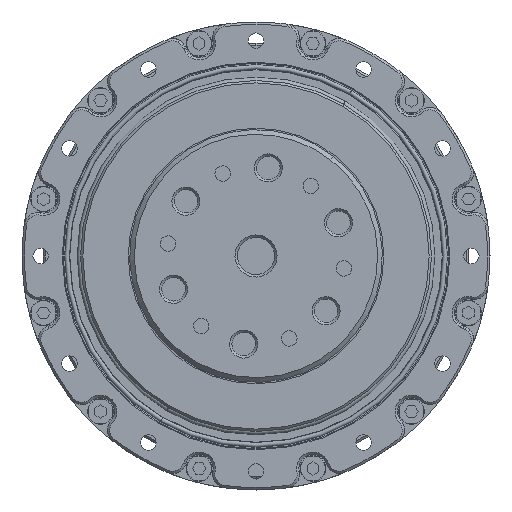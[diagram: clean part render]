
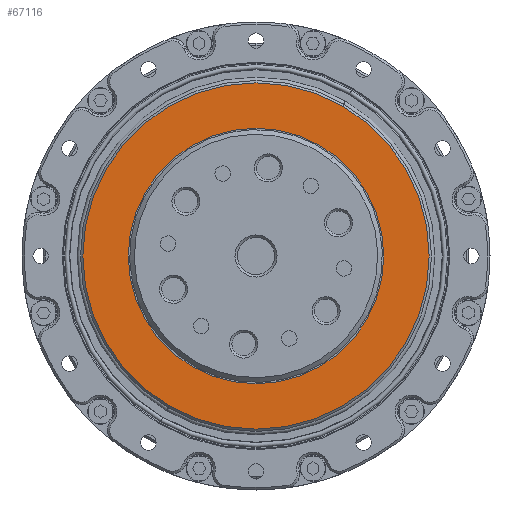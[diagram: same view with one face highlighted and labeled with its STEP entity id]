
A CAD part, front view. The second image highlights one B-rep face of the part: STEP entity #67116.
In plain terms, the highlighted planar face has unit normal (0, -1, 0).
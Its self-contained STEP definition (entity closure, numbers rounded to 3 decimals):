
#4027 = CARTESIAN_POINT ( 'NONE',  ( 0., -53.1, 0. ) ) ;
#4136 = EDGE_LOOP ( 'NONE', ( #41261, #15500 ) ) ;
#4821 = CARTESIAN_POINT ( 'NONE',  ( 0., -53.1, 0. ) ) ;
#7440 = EDGE_CURVE ( 'NONE', #70000, #39369, #93542, .T. ) ;
#9011 = DIRECTION ( 'NONE',  ( 0., -1., 0. ) ) ;
#9482 = CARTESIAN_POINT ( 'NONE',  ( 18.5, -53.1, 32.043 ) ) ;
#15500 = ORIENTED_EDGE ( 'NONE', *, *, #7440, .F. ) ;
#17693 = FACE_BOUND ( 'NONE', #4136, .T. ) ;
#23037 = DIRECTION ( 'NONE',  ( 0., 1., 0. ) ) ;
#23940 = DIRECTION ( 'NONE',  ( 0., -1., 0. ) ) ;
#26707 = AXIS2_PLACEMENT_3D ( 'NONE', #4027, #64042, #32533 ) ;
#30370 = DIRECTION ( 'NONE',  ( 0., -1., 0. ) ) ;
#31721 = CIRCLE ( 'NONE', #53769, 37. ) ;
#32533 = DIRECTION ( 'NONE',  ( 0.5, 0., 0.866 ) ) ;
#33739 = DIRECTION ( 'NONE',  ( 0.5, 0., 0.866 ) ) ;
#37014 = AXIS2_PLACEMENT_3D ( 'NONE', #114781, #23037, #115209 ) ;
#39369 = VERTEX_POINT ( 'NONE', #65744 ) ;
#41261 = ORIENTED_EDGE ( 'NONE', *, *, #94628, .F. ) ;
#49964 = AXIS2_PLACEMENT_3D ( 'NONE', #4821, #23940, #33739 ) ;
#52726 = CIRCLE ( 'NONE', #49964, 27.3 ) ;
#53769 = AXIS2_PLACEMENT_3D ( 'NONE', #121146, #9011, #80225 ) ;
#64042 = DIRECTION ( 'NONE',  ( 0., -1., 0. ) ) ;
#65744 = CARTESIAN_POINT ( 'NONE',  ( 13.65, -53.1, 23.642 ) ) ;
#67116 = ADVANCED_FACE ( 'NONE', ( #111753, #17693 ), #124514, .F. ) ;
#70000 = VERTEX_POINT ( 'NONE', #109382 ) ;
#71341 = CARTESIAN_POINT ( 'NONE',  ( 0., -53.1, 0. ) ) ;
#73274 = CARTESIAN_POINT ( 'NONE',  ( -18.5, -53.1, -32.043 ) ) ;
#77068 = VERTEX_POINT ( 'NONE', #73274 ) ;
#80225 = DIRECTION ( 'NONE',  ( 0.5, 0., 0.866 ) ) ;
#84942 = VERTEX_POINT ( 'NONE', #9482 ) ;
#87683 = AXIS2_PLACEMENT_3D ( 'NONE', #71341, #30370, #128806 ) ;
#93542 = CIRCLE ( 'NONE', #26707, 27.3 ) ;
#94628 = EDGE_CURVE ( 'NONE', #39369, #70000, #52726, .T. ) ;
#95243 = CIRCLE ( 'NONE', #87683, 37. ) ;
#97285 = EDGE_LOOP ( 'NONE', ( #120233, #123667 ) ) ;
#105169 = EDGE_CURVE ( 'NONE', #77068, #84942, #31721, .T. ) ;
#109382 = CARTESIAN_POINT ( 'NONE',  ( -13.65, -53.1, -23.642 ) ) ;
#111753 = FACE_OUTER_BOUND ( 'NONE', #97285, .T. ) ;
#114781 = CARTESIAN_POINT ( 'NONE',  ( 0., -53.1, 0. ) ) ;
#115209 = DIRECTION ( 'NONE',  ( 1., 0., 0. ) ) ;
#120233 = ORIENTED_EDGE ( 'NONE', *, *, #124786, .T. ) ;
#121146 = CARTESIAN_POINT ( 'NONE',  ( 0., -53.1, 0. ) ) ;
#123667 = ORIENTED_EDGE ( 'NONE', *, *, #105169, .T. ) ;
#124514 = PLANE ( 'NONE',  #37014 ) ;
#124786 = EDGE_CURVE ( 'NONE', #84942, #77068, #95243, .T. ) ;
#128806 = DIRECTION ( 'NONE',  ( 0.5, 0., 0.866 ) ) ;
